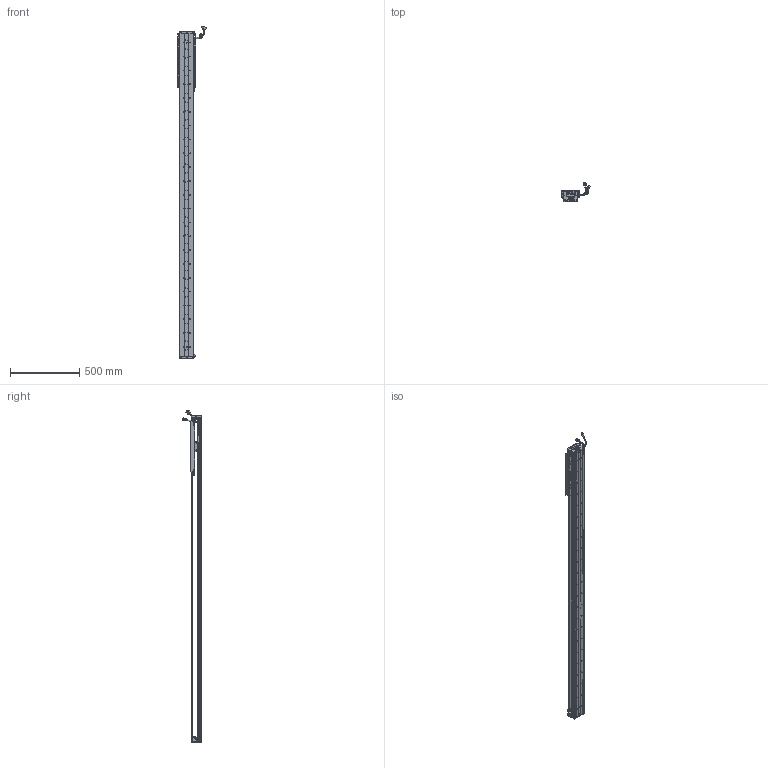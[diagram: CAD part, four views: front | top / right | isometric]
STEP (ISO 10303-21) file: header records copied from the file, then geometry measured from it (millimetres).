
FILE_DESCRIPTION (( 'STEP AP203' ), '1' );
FILE_NAME ('Z5-RY100D-1-L500-B-K.SLDASM_1900.step', '2021-05-17T03:34:13', ( '盈信电脑' ), ( '东莞市道滘镇水果街19号' ), 'SwSTEP 2.0', 'SolidWorks 2016', '' );
FILE_SCHEMA (( 'CONFIG_CONTROL_DESIGN' ));
Length unit declared in the file: millimetre
Products named in the file (36): SCREW-M1.7; LABEL-Part-1; HARNESS-Part-1; SHIELDPLATE; SCALE; Z5-RY100D-1-L500-B-K.SLDASM_1900; 140蚥薯蝶輸; 140雄赽晤鎢ん堤盄; Z-RY100D覜茼んえ; Z5-RY100-L500詩湍90mm遵_1900; 榋妏寠巭燃_暯_M2_2; LABEL; SCALE-Part-2; Z-RY100D詩湍奻揤裔; COVER; SCREW-M1.6; HARNESS; Z5-RY100D-500-倰第菁釱_1900; Z-100詩湍傷裔啣; SCALE-Part-1; SCREW-M1.7-1; 080黍杅芛假蚾釱21遴; HOLDER0; SEAL-Part-1; PBU_SHEET; HARNESS-Part-2; Z5-RY100铝滑块（21款）; Z-RY100D詩湍狟揤裔; PSLH080_PSLF2; 覜茼ん672; SCREW-M1.6-1; SCREW-M1.6-2; 100-Z-臏賑輸盄裔(21遴); SEAL; SCREW-M1.6-3; COVER-Part-1
Assembly tree (43 placements, depth 4):
  Z5-RY100D-1-L500-B-K.SLDASM_1900
    Z5-RY100D-500-倰第菁釱_1900
    Z5-RY100铝滑块（21款）
    PSLH080_PSLF2
      SCALE
        SCALE-Part-1
        SCALE-Part-2
      HARNESS
        HARNESS-Part-1
        HARNESS-Part-2
      LABEL
        LABEL-Part-1
      COVER
        COVER-Part-1
      SEAL
        SEAL-Part-1
      榋妏寠巭燃_暯_M2_2
      SHIELDPLATE
      SCREW-M1.7
      SCREW-M1.7-1
      PBU_SHEET
      SCREW-M1.6
      SCREW-M1.6-1
      SCREW-M1.6-2
      SCREW-M1.6-3
      HOLDER0
    080黍杅芛假蚾釱21遴
    Z-100詩湍傷裔啣  x2
    140蚥薯蝶輸  x2
    覜茼ん672  x3
    Z-RY100D覜茼んえ  x3
    100-Z-臏賑輸盄裔(21遴)
    140雄赽晤鎢ん堤盄
    Z5-RY100-L500詩湍90mm遵_1900
    Z-RY100D詩湍狟揤裔  x2
    Z-RY100D詩湍奻揤裔  x2
Bounding box: 205.84 x 136.11 x 2400.43 mm (x, y, z)
Volume: 4670013.8 mm3; surface area: 1798229.9 mm2
Topology: 38 solids, 38 shells, 2935 faces, 7951 edges, 5068 vertices
Faces by surface type: cylinder 1414, plane 1173, cone 226, torus 69, bspline 53
Entity records: 84053 total; most frequent: CARTESIAN_POINT 17603, DIRECTION 13525, ORIENTED_EDGE 12782, EDGE_CURVE 6391, AXIS2_PLACEMENT_3D 5070, VERTEX_POINT 4136, VECTOR 3385, LINE 3385
